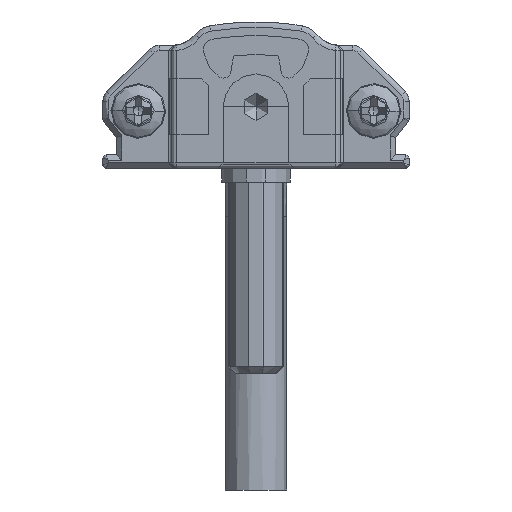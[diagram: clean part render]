
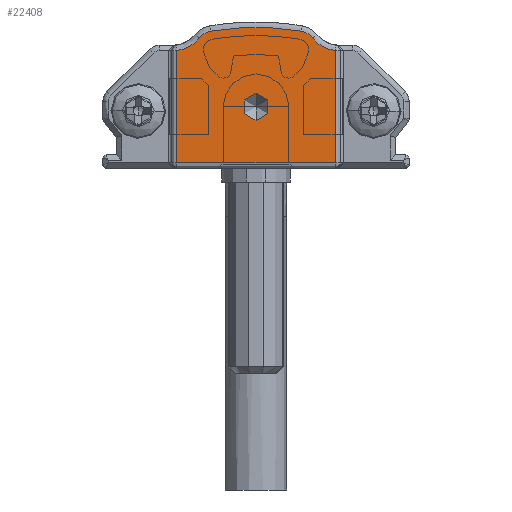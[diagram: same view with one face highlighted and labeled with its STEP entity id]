
A CAD part, front view. The second image highlights one B-rep face of the part: STEP entity #22408.
In plain terms, the highlighted planar face has unit normal (0, -1, 0).
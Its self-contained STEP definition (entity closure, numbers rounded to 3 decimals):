
#382 = ORIENTED_EDGE ( 'NONE', *, *, #25127, .F. ) ;
#687 = DIRECTION ( 'NONE',  ( 0., 0., -1. ) ) ;
#951 = CARTESIAN_POINT ( 'NONE',  ( 11.2, -15., 5.5 ) ) ;
#1194 = VERTEX_POINT ( 'NONE', #7410 ) ;
#1646 = DIRECTION ( 'NONE',  ( 0., 0., -1. ) ) ;
#1674 = CIRCLE ( 'NONE', #22692, 1.3 ) ;
#2211 = AXIS2_PLACEMENT_3D ( 'NONE', #31952, #8785, #687 ) ;
#2470 = ORIENTED_EDGE ( 'NONE', *, *, #24951, .T. ) ;
#3160 = EDGE_CURVE ( 'NONE', #17041, #9614, #1674, .T. ) ;
#3256 = EDGE_LOOP ( 'NONE', ( #6011, #7635, #15755, #28785, #22609, #2470, #4983, #21027 ) ) ;
#3905 = CARTESIAN_POINT ( 'NONE',  ( 17., -15., 0.4 ) ) ;
#4874 = DIRECTION ( 'NONE',  ( 0., -1., 0. ) ) ;
#4928 = CIRCLE ( 'NONE', #23799, 20.676 ) ;
#4983 = ORIENTED_EDGE ( 'NONE', *, *, #16647, .T. ) ;
#5025 = EDGE_CURVE ( 'NONE', #33106, #5544, #6870, .T. ) ;
#5544 = VERTEX_POINT ( 'NONE', #31944 ) ;
#6011 = ORIENTED_EDGE ( 'NONE', *, *, #11613, .T. ) ;
#6180 = DIRECTION ( 'NONE',  ( 0., -1., 0. ) ) ;
#6870 = CIRCLE ( 'NONE', #14458, 1.3 ) ;
#7026 = AXIS2_PLACEMENT_3D ( 'NONE', #14957, #14462, #32515 ) ;
#7083 = EDGE_CURVE ( 'NONE', #5544, #17041, #4928, .T. ) ;
#7158 = CIRCLE ( 'NONE', #26008, 2.4 ) ;
#7364 = DIRECTION ( 'NONE',  ( 0., -1., 0. ) ) ;
#7410 = CARTESIAN_POINT ( 'NONE',  ( 5.4, -15., 8.612 ) ) ;
#7437 = VERTEX_POINT ( 'NONE', #951 ) ;
#7614 = CARTESIAN_POINT ( 'NONE',  ( 5.4, -15., 0.4 ) ) ;
#7635 = ORIENTED_EDGE ( 'NONE', *, *, #17050, .T. ) ;
#8527 = CARTESIAN_POINT ( 'NONE',  ( 8.1, -15., 8.75 ) ) ;
#8743 = PLANE ( 'NONE',  #29032 ) ;
#8785 = DIRECTION ( 'NONE',  ( 0., 1., 0. ) ) ;
#8851 = DIRECTION ( 'NONE',  ( 0., 0., -1. ) ) ;
#9247 = CARTESIAN_POINT ( 'NONE',  ( 22.15, -15., 3.606 ) ) ;
#9614 = VERTEX_POINT ( 'NONE', #32116 ) ;
#9728 = VECTOR ( 'NONE', #31819, 1000. ) ;
#10123 = LINE ( 'NONE', #22781, #20022 ) ;
#10308 = CIRCLE ( 'NONE', #2211, 2.4 ) ;
#11077 = DIRECTION ( 'NONE',  ( 0., 0., -1. ) ) ;
#11128 = EDGE_CURVE ( 'NONE', #13193, #17074, #31651, .T. ) ;
#11438 = AXIS2_PLACEMENT_3D ( 'NONE', #25447, #4874, #15206 ) ;
#11613 = EDGE_CURVE ( 'NONE', #17074, #12316, #10123, .T. ) ;
#12316 = VERTEX_POINT ( 'NONE', #24326 ) ;
#12507 = DIRECTION ( 'NONE',  ( 0., 0., -1. ) ) ;
#13193 = VERTEX_POINT ( 'NONE', #20664 ) ;
#14085 = VERTEX_POINT ( 'NONE', #23845 ) ;
#14458 = AXIS2_PLACEMENT_3D ( 'NONE', #29152, #6180, #16841 ) ;
#14462 = DIRECTION ( 'NONE',  ( 0., -1., 0. ) ) ;
#14957 = CARTESIAN_POINT ( 'NONE',  ( 11.2, -15., 4.5 ) ) ;
#15206 = DIRECTION ( 'NONE',  ( 0., 0., -1. ) ) ;
#15219 = DIRECTION ( 'NONE',  ( 0., -1., 0. ) ) ;
#15755 = ORIENTED_EDGE ( 'NONE', *, *, #5025, .T. ) ;
#16647 = EDGE_CURVE ( 'NONE', #1194, #13193, #30766, .T. ) ;
#16841 = DIRECTION ( 'NONE',  ( 0., 0., -1. ) ) ;
#17041 = VERTEX_POINT ( 'NONE', #24555 ) ;
#17050 = EDGE_CURVE ( 'NONE', #12316, #33106, #7158, .T. ) ;
#17074 = VERTEX_POINT ( 'NONE', #21538 ) ;
#17598 = DIRECTION ( 'NONE',  ( 0., 0., 1. ) ) ;
#17954 = DIRECTION ( 'NONE',  ( 0., 0., -1. ) ) ;
#19186 = DIRECTION ( 'NONE',  ( 0., 1., 0. ) ) ;
#19904 = ORIENTED_EDGE ( 'NONE', *, *, #21996, .F. ) ;
#20022 = VECTOR ( 'NONE', #17598, 1000. ) ;
#20554 = VECTOR ( 'NONE', #17954, 1000. ) ;
#20664 = CARTESIAN_POINT ( 'NONE',  ( 5.4, -15., 0.4 ) ) ;
#21027 = ORIENTED_EDGE ( 'NONE', *, *, #11128, .T. ) ;
#21538 = CARTESIAN_POINT ( 'NONE',  ( 17., -15., 0.4 ) ) ;
#21563 = FACE_OUTER_BOUND ( 'NONE', #3256, .T. ) ;
#21996 = EDGE_CURVE ( 'NONE', #7437, #14085, #22109, .T. ) ;
#22109 = CIRCLE ( 'NONE', #7026, 1. ) ;
#22408 = ADVANCED_FACE ( 'NONE', ( #21563, #31905 ), #8743, .T. ) ;
#22609 = ORIENTED_EDGE ( 'NONE', *, *, #3160, .T. ) ;
#22692 = AXIS2_PLACEMENT_3D ( 'NONE', #8527, #24042, #8851 ) ;
#22781 = CARTESIAN_POINT ( 'NONE',  ( 17., -15., 8.612 ) ) ;
#23799 = AXIS2_PLACEMENT_3D ( 'NONE', #25963, #15219, #12507 ) ;
#23845 = CARTESIAN_POINT ( 'NONE',  ( 11.2, -15., 3.5 ) ) ;
#24042 = DIRECTION ( 'NONE',  ( 0., -1., 0. ) ) ;
#24306 = CARTESIAN_POINT ( 'NONE',  ( 15.332, -15., 9.541 ) ) ;
#24326 = CARTESIAN_POINT ( 'NONE',  ( 17., -15., 8.612 ) ) ;
#24555 = CARTESIAN_POINT ( 'NONE',  ( 7.892, -15., 10.034 ) ) ;
#24951 = EDGE_CURVE ( 'NONE', #9614, #1194, #10308, .T. ) ;
#25127 = EDGE_CURVE ( 'NONE', #14085, #7437, #26500, .T. ) ;
#25447 = CARTESIAN_POINT ( 'NONE',  ( 11.2, -15., 4.5 ) ) ;
#25963 = CARTESIAN_POINT ( 'NONE',  ( 11.2, -15., -10.376 ) ) ;
#26008 = AXIS2_PLACEMENT_3D ( 'NONE', #31545, #19186, #11077 ) ;
#26500 = CIRCLE ( 'NONE', #11438, 1. ) ;
#28785 = ORIENTED_EDGE ( 'NONE', *, *, #7083, .T. ) ;
#29032 = AXIS2_PLACEMENT_3D ( 'NONE', #9247, #7364, #1646 ) ;
#29152 = CARTESIAN_POINT ( 'NONE',  ( 14.3, -15., 8.75 ) ) ;
#30766 = LINE ( 'NONE', #7614, #20554 ) ;
#30978 = EDGE_LOOP ( 'NONE', ( #382, #19904 ) ) ;
#31545 = CARTESIAN_POINT ( 'NONE',  ( 17.238, -15., 11. ) ) ;
#31651 = LINE ( 'NONE', #3905, #9728 ) ;
#31819 = DIRECTION ( 'NONE',  ( 1., 0., 0. ) ) ;
#31905 = FACE_BOUND ( 'NONE', #30978, .T. ) ;
#31944 = CARTESIAN_POINT ( 'NONE',  ( 14.508, -15., 10.034 ) ) ;
#31952 = CARTESIAN_POINT ( 'NONE',  ( 5.162, -15., 11. ) ) ;
#32116 = CARTESIAN_POINT ( 'NONE',  ( 7.068, -15., 9.541 ) ) ;
#32515 = DIRECTION ( 'NONE',  ( 0., 0., -1. ) ) ;
#33106 = VERTEX_POINT ( 'NONE', #24306 ) ;
